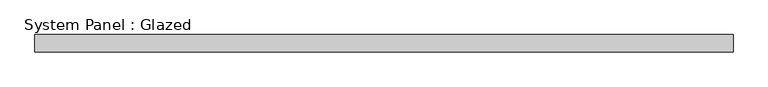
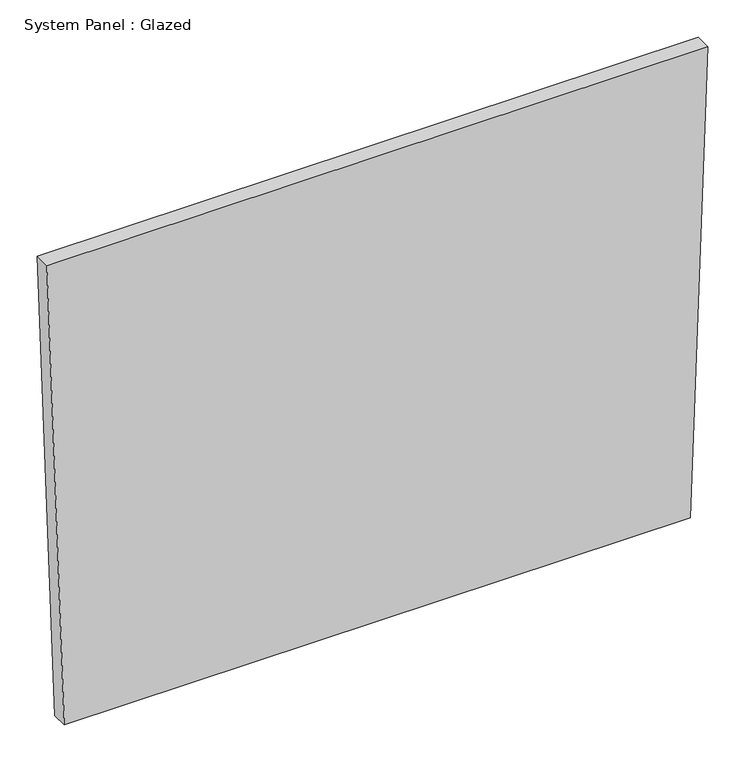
"""IFC4 building model written with IfcOpenShell, lengths in millimetres: plate geometry, System Panel : Glazed."""

from ifc_helpers import new_model, si_unit, frame, origin, place, context, project, spatial, polyline, outline, extrude, source, transform, mapped, element, save


def system_panel_glazed_37a8a3c5(model_context):
    return source(origin(), model_context, "Body", "SweptSolid", [
        extrude(outline(polyline([(0.0, -484.8019819), (0.0, 484.8019819), (761.5238602, 511.7354253), (761.5238602, -511.7354253), (0.0, -484.8019819)])), frame((0.0, -44.45, 0.0), z_axis=(0.0, 1.0, 0.0), x_axis=(0.0, 0.0, 1.0)), (0.0, 0.0, 1.0), 25.4),
    ])


if __name__ == "__main__":
    model = new_model("IFC4")
    model_context = context("Model", 3, world=origin())
    ifc_project = project(units=[si_unit("LENGTHUNIT", "METRE", prefix="MILLI")], contexts=[model_context])
    site = spatial("IfcSite", under=ifc_project)
    building = spatial("IfcBuilding", under=site)
    placement = place(None, origin())
    system_panel_glazed_shape = system_panel_glazed_37a8a3c5(model_context)
    element("IfcPlate", 1, ObjectType="System Panel : Glazed", at=placement, inside=building, context=model_context, shape_type="MappedRepresentation", body=[
        mapped(system_panel_glazed_shape, transform((0.0, 0.0, 0.0), x_axis=(1.0, 0.0, 0.0), y_axis=(0.0, 1.0, 0.0), z_axis=(0.0, 0.0, 1.0))),
    ])
    save(model, "model.ifc")
